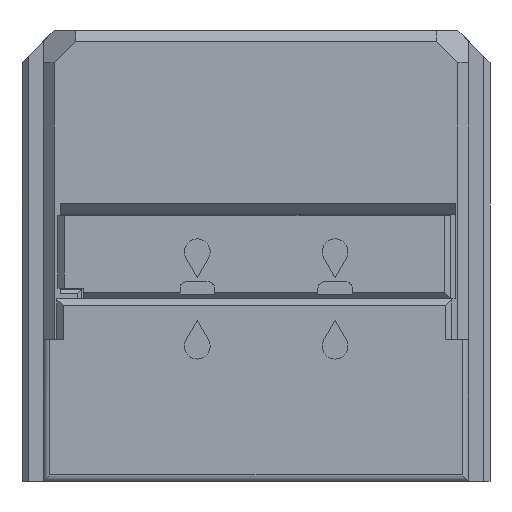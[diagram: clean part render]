
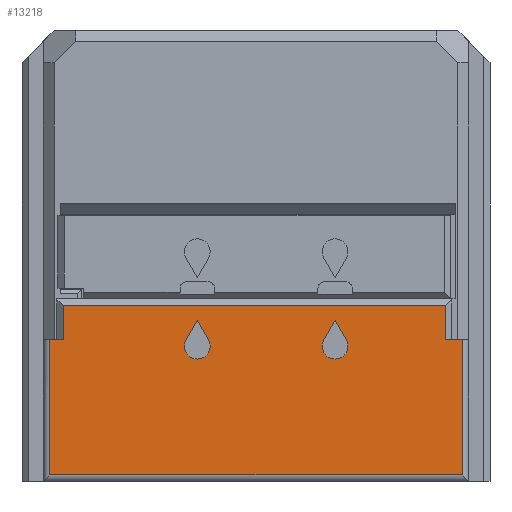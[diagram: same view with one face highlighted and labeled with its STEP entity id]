
A CAD part, front view. The second image highlights one B-rep face of the part: STEP entity #13218.
In plain terms, the highlighted planar face has unit normal (0, -1, 0).
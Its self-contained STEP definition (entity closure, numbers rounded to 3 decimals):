
#3412=DIRECTION('',(-1.,0.,0.));
#3413=VECTOR('',#3412,0.625);
#3414=CARTESIAN_POINT('',(-8.975,-2.6,-14.4));
#3415=LINE('',#3414,#3413);
#3936=DIRECTION('',(-0.5,0.,-0.866));
#3937=VECTOR('',#3936,1.039);
#3938=CARTESIAN_POINT('',(-2.735,-2.6,-13.5));
#3939=LINE('',#3938,#3937);
#3940=CARTESIAN_POINT('',(-2.735,-2.6,-14.7));
#3941=DIRECTION('',(0.,-1.,0.));
#3942=DIRECTION('',(-0.866,0.,0.5));
#3943=AXIS2_PLACEMENT_3D('',#3940,#3941,#3942);
#3945=DIRECTION('',(-0.5,0.,0.866));
#3946=VECTOR('',#3945,1.039);
#3947=CARTESIAN_POINT('',(-2.215,-2.6,-14.4));
#3948=LINE('',#3947,#3946);
#3949=DIRECTION('',(-0.5,0.,-0.866));
#3950=VECTOR('',#3949,1.039);
#3951=CARTESIAN_POINT('',(3.685,-2.6,-13.5));
#3952=LINE('',#3951,#3950);
#3953=CARTESIAN_POINT('',(3.685,-2.6,-14.7));
#3954=DIRECTION('',(0.,-1.,0.));
#3955=DIRECTION('',(-0.866,0.,0.5));
#3956=AXIS2_PLACEMENT_3D('',#3953,#3954,#3955);
#3958=DIRECTION('',(-0.5,0.,0.866));
#3959=VECTOR('',#3958,1.039);
#3960=CARTESIAN_POINT('',(4.205,-2.6,-14.4));
#3961=LINE('',#3960,#3959);
#3962=DIRECTION('',(0.,0.,-1.));
#3963=VECTOR('',#3962,6.3);
#3964=CARTESIAN_POINT('',(-9.6,-2.6,-14.4));
#3965=LINE('',#3964,#3963);
#3966=DIRECTION('',(0.,0.,-1.));
#3967=VECTOR('',#3966,1.6);
#3968=CARTESIAN_POINT('',(-8.975,-2.6,-12.8));
#3969=LINE('',#3968,#3967);
#3970=DIRECTION('',(-1.,0.,0.));
#3971=VECTOR('',#3970,17.8);
#3972=CARTESIAN_POINT('',(8.825,-2.6,-12.8));
#3973=LINE('',#3972,#3971);
#3974=DIRECTION('',(0.,0.,1.));
#3975=VECTOR('',#3974,1.6);
#3976=CARTESIAN_POINT('',(8.825,-2.6,-14.4));
#3977=LINE('',#3976,#3975);
#3978=DIRECTION('',(0.,0.,1.));
#3979=VECTOR('',#3978,6.3);
#3980=CARTESIAN_POINT('',(9.6,-2.6,-20.7));
#3981=LINE('',#3980,#3979);
#3982=DIRECTION('',(1.,0.,0.));
#3983=VECTOR('',#3982,19.2);
#3984=CARTESIAN_POINT('',(-9.6,-2.6,-20.7));
#3985=LINE('',#3984,#3983);
#4053=DIRECTION('',(-1.,0.,0.));
#4054=VECTOR('',#4053,0.775);
#4055=CARTESIAN_POINT('',(9.6,-2.6,-14.4));
#4056=LINE('',#4055,#4054);
#6940=CARTESIAN_POINT('',(-2.735,-2.6,-13.5));
#6941=CARTESIAN_POINT('',(-3.255,-2.6,-14.4));
#6942=VERTEX_POINT('',#6940);
#6943=VERTEX_POINT('',#6941);
#6944=CARTESIAN_POINT('',(-2.215,-2.6,-14.4));
#6945=VERTEX_POINT('',#6944);
#6946=CARTESIAN_POINT('',(3.685,-2.6,-13.5));
#6947=CARTESIAN_POINT('',(3.165,-2.6,-14.4));
#6948=VERTEX_POINT('',#6946);
#6949=VERTEX_POINT('',#6947);
#6950=CARTESIAN_POINT('',(4.205,-2.6,-14.4));
#6951=VERTEX_POINT('',#6950);
#7330=CARTESIAN_POINT('',(8.825,-2.6,-14.4));
#7331=CARTESIAN_POINT('',(8.825,-2.6,-12.8));
#7332=VERTEX_POINT('',#7330);
#7333=VERTEX_POINT('',#7331);
#7338=CARTESIAN_POINT('',(-8.975,-2.6,-12.8));
#7339=VERTEX_POINT('',#7338);
#7344=CARTESIAN_POINT('',(-8.975,-2.6,-14.4));
#7345=VERTEX_POINT('',#7344);
#7523=CARTESIAN_POINT('',(-9.6,-2.6,-14.4));
#7525=VERTEX_POINT('',#7523);
#7526=CARTESIAN_POINT('',(-9.6,-2.6,-20.7));
#7527=VERTEX_POINT('',#7526);
#7532=CARTESIAN_POINT('',(9.6,-2.6,-20.7));
#7533=VERTEX_POINT('',#7532);
#7534=CARTESIAN_POINT('',(9.6,-2.6,-14.4));
#7536=VERTEX_POINT('',#7534);
#13183=CARTESIAN_POINT('',(0.,-2.6,0.));
#13184=DIRECTION('',(0.,-1.,0.));
#13185=DIRECTION('',(0.,0.,1.));
#13186=AXIS2_PLACEMENT_3D('',#13183,#13184,#13185);
#13187=PLANE('',#13186);
#13188=ORIENTED_EDGE('',*,*,#12405,.F.);
#13189=ORIENTED_EDGE('',*,*,#12428,.F.);
#13191=ORIENTED_EDGE('',*,*,#13190,.F.);
#13192=ORIENTED_EDGE('',*,*,#13160,.F.);
#13193=ORIENTED_EDGE('',*,*,#13173,.F.);
#13195=ORIENTED_EDGE('',*,*,#13194,.F.);
#13197=ORIENTED_EDGE('',*,*,#13196,.F.);
#13199=ORIENTED_EDGE('',*,*,#13198,.F.);
#13200=EDGE_LOOP('',(#13188,#13189,#13191,#13192,#13193,#13195,#13197,#13199));
#13201=FACE_OUTER_BOUND('',#13200,.F.);
#13203=ORIENTED_EDGE('',*,*,#13202,.T.);
#13205=ORIENTED_EDGE('',*,*,#13204,.T.);
#13207=ORIENTED_EDGE('',*,*,#13206,.T.);
#13208=EDGE_LOOP('',(#13203,#13205,#13207));
#13209=FACE_BOUND('',#13208,.F.);
#13211=ORIENTED_EDGE('',*,*,#13210,.T.);
#13213=ORIENTED_EDGE('',*,*,#13212,.T.);
#13215=ORIENTED_EDGE('',*,*,#13214,.T.);
#13216=EDGE_LOOP('',(#13211,#13213,#13215));
#13217=FACE_BOUND('',#13216,.F.);
#13218=ADVANCED_FACE('',(#13201,#13209,#13217),#13187,.T.);
#3944=CIRCLE('',#3943,0.6);
#3957=CIRCLE('',#3956,0.6);
#12405=EDGE_CURVE('',#7525,#7527,#3965,.T.);
#12428=EDGE_CURVE('',#7345,#7525,#3415,.T.);
#13160=EDGE_CURVE('',#7333,#7339,#3973,.T.);
#13173=EDGE_CURVE('',#7332,#7333,#3977,.T.);
#13190=EDGE_CURVE('',#7339,#7345,#3969,.T.);
#13194=EDGE_CURVE('',#7536,#7332,#4056,.T.);
#13196=EDGE_CURVE('',#7533,#7536,#3981,.T.);
#13198=EDGE_CURVE('',#7527,#7533,#3985,.T.);
#13202=EDGE_CURVE('',#6942,#6943,#3939,.T.);
#13204=EDGE_CURVE('',#6943,#6945,#3944,.T.);
#13206=EDGE_CURVE('',#6945,#6942,#3948,.T.);
#13210=EDGE_CURVE('',#6948,#6949,#3952,.T.);
#13212=EDGE_CURVE('',#6949,#6951,#3957,.T.);
#13214=EDGE_CURVE('',#6951,#6948,#3961,.T.);
